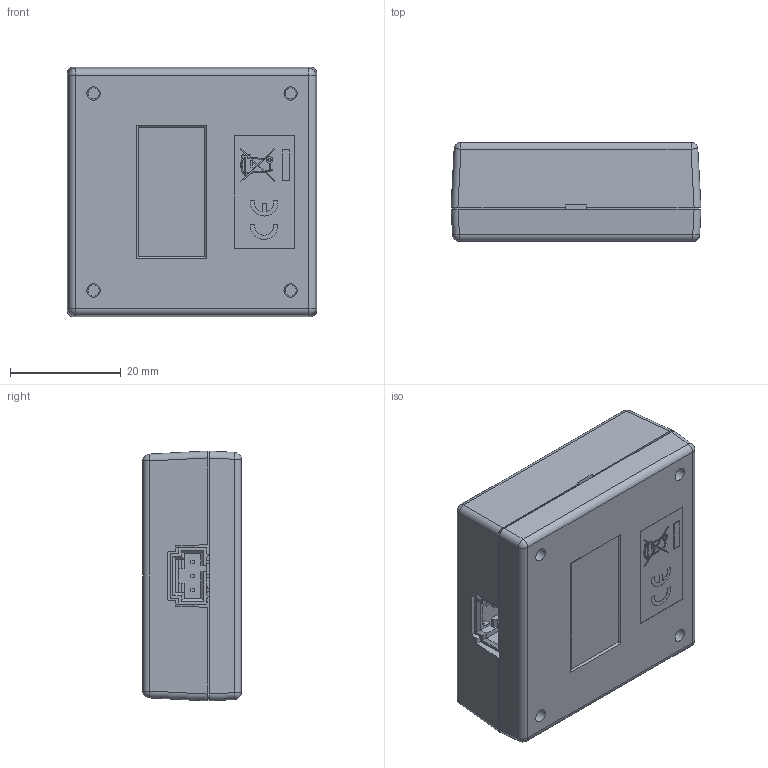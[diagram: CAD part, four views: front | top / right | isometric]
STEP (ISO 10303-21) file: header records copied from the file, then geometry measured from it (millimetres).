
FILE_DESCRIPTION(/* description */ ('Alibre Inc.'),/* implementation_level */ '2;1');
FILE_NAME(/* name */ 'export0',/* time_stamp */ '2018-08-10T09:03:24-06:00',/* author */ (''),/* organization */ (''),/* preprocessor_version */ 'ST-DEVELOPER v17',/* originating_system */ 'Alibre',/* authorisation */ '');
FILE_SCHEMA (('CONFIG_CONTROL_DESIGN'));
Length unit declared in the file: centimetre
Products named in the file (33): ID_1; ID_2; ID_3; ID_4; ID_5; ID_6; ID_7; ID_8; ID_9; ID_10; ID_11; ID_12; ID_13; ID_14
Bounding box: 45.11 x 17.77 x 45.11 mm (x, y, z)
Volume: 15699.5 mm3; surface area: 20616.9 mm2
Topology: 27 solids, 27 shells, 1340 faces, 3553 edges, 2274 vertices
Faces by surface type: plane 949, cylinder 296, bspline 39, cone 24, revolution 24, sphere 8
Full cylindrical faces by diameter (mm): 0.6 x4, 0.965 x3, 1.067 x8, 1.321 x6, 3.099 x4, 3.175 x4
Entity records: 32376 total; most frequent: CARTESIAN_POINT 7156, ORIENTED_EDGE 4802, DIRECTION 3751, EDGE_CURVE 2401, VECTOR 1838, LINE 1838, VERTEX_POINT 1576, AXIS2_PLACEMENT_3D 1255
